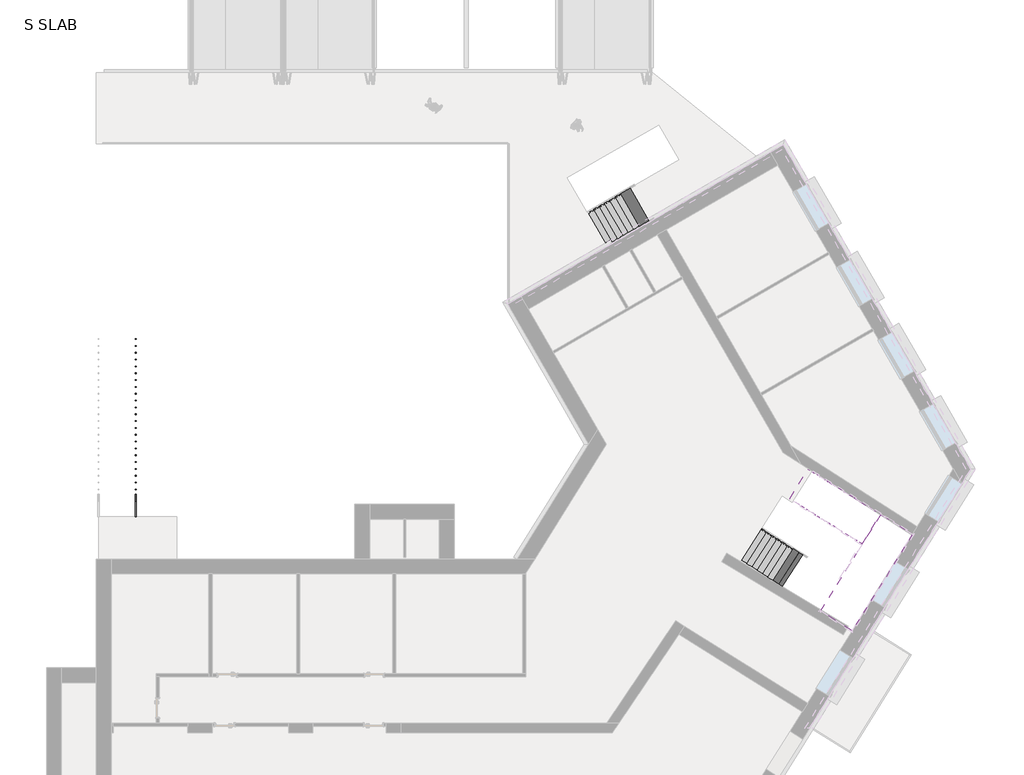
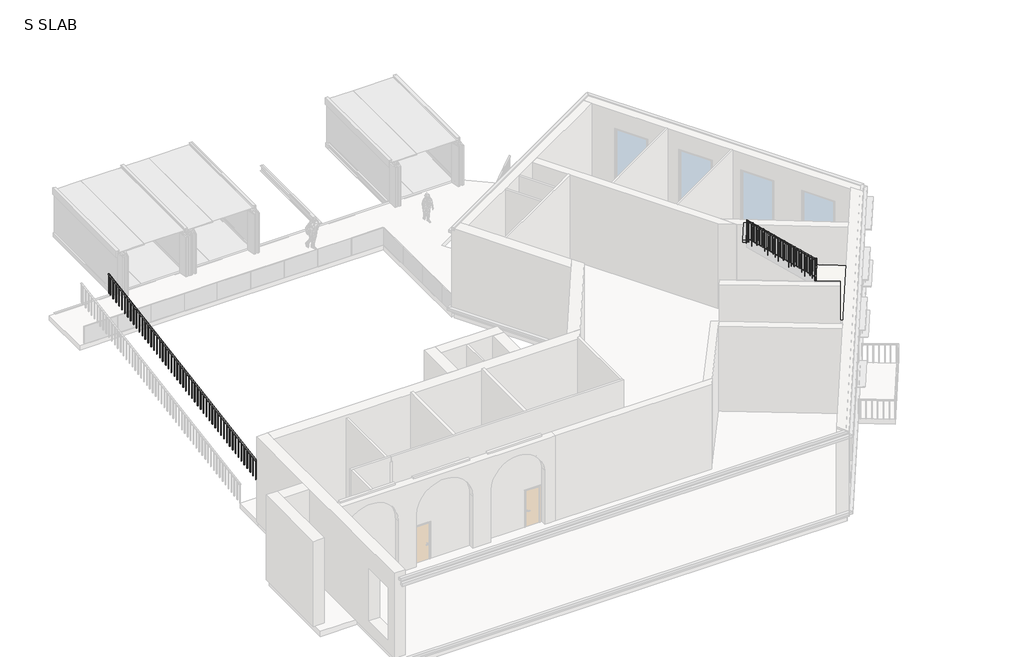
# One storey, part 3 of 4: 3 stair flights, 2 railings, 1 slab.
"""IFC4 building model written with IfcOpenShell, lengths in millimetres."""

from ifc_helpers import new_model, si_unit, frame, origin, place, context, project, spatial, polyline, outline, extrude, faceted_brep, transform, mapped, element, save
from components import slab_e200e813, wood_steps_w_50mm_tread_10mm_nosing_13mm_riser_ad3dbc8e, wood_steps_w_50mm_tread_10mm_nosing_13mm_riser_ab96eb21, wood_steps_w_50mm_tread_10mm_nosing_13mm_riser_1746afbe

model = new_model("IFC4")

# Units and contexts
model_context = context("Model", 3, world=origin())
ifc_project = project(units=[si_unit("LENGTHUNIT", "METRE", prefix="MILLI")], contexts=[model_context])

# Site, building, storey
site = spatial("IfcSite", under=ifc_project)
building = spatial("IfcBuilding", under=site)
storey = spatial("IfcBuildingStorey", under=building, Name="S SLAB", Elevation=6300.0)

# Railings
placement = place(None, origin())
element("IfcRailing", 1, ObjectType="1100mm", at=placement, inside=storey, context=model_context, shape_type="SolidModel", body=[
    faceted_brep([(13346.3491617, 10803.5601514, 7567.7419355), (13346.3491617, 10803.5601514, 7507.529858), (13319.414823, 10761.4348455, 7507.529858), (13319.414823, 10761.4348455, 7567.7419355), (16451.2881703, 8818.3050396, 10040.5001387), (16493.4134762, 8791.3707009, 10013.8364483), (16466.4791375, 8749.245395, 10013.8364483), (16424.3538316, 8776.1797337, 10040.5001387), (16553.7286282, 8841.4697509, 10033.8709677), (16553.7286282, 8841.4697509, 10083.8709677), (17356.5933547, 10130.2282843, 10083.8709677), (17383.0314845, 10172.6667727, 10033.8709677), (16596.1671165, 8815.0316211, 10033.8709677), (17425.4699729, 10146.2286429, 10033.8709677), (16596.1671165, 8815.0316211, 10083.8709677), (17399.0318431, 10103.7901545, 10083.8709677), (17356.5933547, 10130.2282843, 10301.6670968), (17383.0314845, 10172.6667727, 10251.6670968), (17425.4699729, 10146.2286429, 10251.6670968), (17399.0318431, 10103.7901545, 10301.6670968), (17396.2505494, 10193.8860168, 10301.6670968), (17396.2505494, 10193.8860168, 10251.6670968), (17465.1271675, 10209.8863754, 10251.6670968), (17465.1271675, 10209.8863754, 10301.6670968), (17332.5928169, 10233.5432115, 10301.6670968), (17319.6746062, 10241.5909376, 10251.6670968), (17346.112736, 10284.029426, 10251.6670968), (17359.0309466, 10275.9816999, 10301.6670968), (14637.4092982, 11912.5759571, 12432.2580645), (14663.847428, 11955.0144454, 12432.2580645), (14663.847428, 11955.0144454, 12372.045987), (14637.4092982, 11912.5759571, 12372.045987), (16451.2881703, 8818.3050396, 10083.8709677), (16493.4134762, 8791.3707009, 10033.8709677), (16466.4791375, 8749.245395, 10033.8709677), (16424.3538316, 8776.1797337, 10083.8709677), (16514.2274846, 8778.0625115, 10083.8709677), (16514.2274846, 8778.0625115, 10033.8709677), (16529.915741, 8708.684907, 10033.8709677), (16529.915741, 8708.684907, 10083.8709677)], [[[0, 1, 2, 3]], [[1, 0, 4, 5]], [[2, 1, 5, 6]], [[3, 2, 6, 7]], [[0, 3, 7, 4]], [[8, 9, 10, 11]], [[12, 8, 11, 13]], [[14, 12, 13, 15]], [[9, 14, 15, 10]], [[11, 10, 16, 17]], [[13, 11, 17, 18]], [[15, 13, 18, 19]], [[10, 15, 19, 16]], [[17, 16, 20, 21]], [[18, 17, 21, 22]], [[19, 18, 22, 23]], [[16, 19, 23, 20]], [[21, 20, 24, 25]], [[22, 21, 25, 26]], [[23, 22, 26, 27]], [[20, 23, 27, 24]], [[28, 29, 30, 31]], [[25, 24, 28, 31]], [[26, 25, 31, 30]], [[27, 26, 30, 29]], [[24, 27, 29, 28]], [[5, 4, 32, 33]], [[6, 5, 33, 34]], [[7, 6, 34, 35]], [[4, 7, 35, 32]], [[33, 32, 36, 37]], [[34, 33, 37, 38]], [[35, 34, 38, 39]], [[32, 35, 39, 36]], [[37, 36, 9, 8]], [[38, 37, 8, 12]], [[39, 38, 12, 14]], [[36, 39, 14, 9]]]),
    extrude(outline(polyline([(108.3870968, 0.0), (91.6129032, 25.0), (1248.5517935, 25.0), (1248.5517935, 0.0), (108.3870968, 0.0)])), frame((14729.2353153, 11870.0978146, 12413.0679225), z_axis=(0.5287625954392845, 0.84876976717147, 0.0), x_axis=(0.0, 0.0, -1.0000000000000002)), (0.0, 0.0, 1.0), 25.0),
    extrude(outline(polyline([(108.3870968, 0.0), (91.6129033, 25.0), (1164.6808258, 25.0), (1164.6808258, 0.0), (108.3870968, 0.0)])), frame((14835.3315362, 11804.0024901, 12329.1969548), z_axis=(0.5287625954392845, 0.84876976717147, 0.0), x_axis=(0.0, 0.0, -1.0000000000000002)), (0.0, 0.0, 1.0), 25.0),
    extrude(outline(polyline([(108.3870968, 0.0), (91.6129032, 25.0), (1248.5517935, 25.0), (1248.5517935, 0.0), (108.3870968, 0.0)])), frame((14941.4277571, 11737.9071657, 12245.325987), z_axis=(0.5287625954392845, 0.84876976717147, 0.0), x_axis=(0.0, 0.0, -1.0000000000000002)), (0.0, 0.0, 1.0), 25.0),
    extrude(outline(polyline([(108.3870968, 0.0), (91.6129033, 24.9999999), (1164.6808258, 24.9999999), (1164.6808258, 0.0), (108.3870968, 0.0)])), frame((15047.5239779, 11671.8118413, 12161.4550193), z_axis=(0.5287625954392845, 0.84876976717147, 0.0), x_axis=(0.0, 0.0, -1.0000000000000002)), (0.0, 0.0, 1.0), 25.0),
    extrude(outline(polyline([(108.3870967, 0.0), (91.6129032, 24.9999999), (1248.5517934, 24.9999999), (1248.5517934, 0.0), (108.3870967, 0.0)])), frame((15153.6201988, 11605.7165168, 12077.5840515), z_axis=(0.5287625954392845, 0.84876976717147, 0.0), x_axis=(0.0, 0.0, -1.0000000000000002)), (0.0, 0.0, 1.0), 25.0),
    extrude(outline(polyline([(108.3870968, 0.0), (91.6129032, 24.9999999), (1164.6808257, 24.9999999), (1164.6808257, 0.0), (108.3870968, 0.0)])), frame((15259.7164197, 11539.6211924, 11993.7130838), z_axis=(0.5287625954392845, 0.84876976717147, 0.0), x_axis=(0.0, 0.0, -1.0000000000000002)), (0.0, 0.0, 1.0), 25.0),
    extrude(outline(polyline([(108.3870967, 0.0), (91.6129032, 24.9999999), (1248.5517934, 24.9999999), (1248.5517934, 0.0), (108.3870967, 0.0)])), frame((15365.8126406, 11473.525868, 11909.842116), z_axis=(0.5287625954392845, 0.84876976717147, 0.0), x_axis=(0.0, 0.0, -1.0000000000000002)), (0.0, 0.0, 1.0), 25.0),
    extrude(outline(polyline([(108.3870968, 0.0), (91.6129032, 24.9999999), (1164.6808257, 24.9999999), (1164.6808257, 0.0), (108.3870968, 0.0)])), frame((15471.9088615, 11407.4305436, 11825.9711483), z_axis=(0.5287625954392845, 0.84876976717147, 0.0), x_axis=(0.0, 0.0, -1.0000000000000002)), (0.0, 0.0, 1.0), 25.0),
    extrude(outline(polyline([(108.3870968, 0.0), (91.6129033, 25.0), (1248.5517935, 25.0), (1248.5517935, 0.0), (108.3870968, 0.0)])), frame((15578.0050824, 11341.3352191, 11742.1001806), z_axis=(0.5287625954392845, 0.84876976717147, 0.0), x_axis=(0.0, 0.0, -1.0000000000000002)), (0.0, 0.0, 1.0), 25.0),
    extrude(outline(polyline([(108.3870968, 0.0), (91.6129032, 25.0), (1164.6808257, 25.0), (1164.6808257, 0.0), (108.3870968, 0.0)])), frame((15684.1013033, 11275.2398947, 11658.2292128), z_axis=(0.5287625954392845, 0.84876976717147, 0.0), x_axis=(0.0, 0.0, -1.0000000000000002)), (0.0, 0.0, 1.0), 25.0),
    extrude(outline(polyline([(108.3870968, 0.0), (91.6129032, 25.0), (1248.5517935, 25.0), (1248.5517935, 0.0), (108.3870968, 0.0)])), frame((15790.1975242, 11209.1445703, 11574.3582451), z_axis=(0.5287625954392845, 0.84876976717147, 0.0), x_axis=(0.0, 0.0, -1.0000000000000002)), (0.0, 0.0, 1.0), 25.0),
    extrude(outline(polyline([(108.3870967, 0.0), (91.6129032, 25.0), (1164.6808257, 25.0), (1164.6808257, 0.0), (108.3870967, 0.0)])), frame((15896.2937451, 11143.0492458, 11490.4872773), z_axis=(0.5287625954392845, 0.84876976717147, 0.0), x_axis=(0.0, 0.0, -1.0000000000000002)), (0.0, 0.0, 1.0), 25.0),
    extrude(outline(polyline([(108.3870968, 0.0), (91.6129032, 25.0), (1248.5517935, 25.0), (1248.5517935, 0.0), (108.3870968, 0.0)])), frame((16002.389966, 11076.9539214, 11406.6163096), z_axis=(0.5287625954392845, 0.84876976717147, 0.0), x_axis=(0.0, 0.0, -1.0000000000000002)), (0.0, 0.0, 1.0), 25.0),
    extrude(outline(polyline([(108.3870968, 0.0), (91.6129033, 25.0), (1164.6808258, 25.0), (1164.6808258, 0.0), (108.3870968, 0.0)])), frame((16108.4861869, 11010.858597, 11322.7453419), z_axis=(0.5287625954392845, 0.84876976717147, 0.0), x_axis=(0.0, 0.0, -1.0000000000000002)), (0.0, 0.0, 1.0), 25.0),
    extrude(outline(polyline([(108.3870968, 0.0), (91.6129032, 25.0), (1248.5517935, 25.0), (1248.5517935, 0.0), (108.3870968, 0.0)])), frame((16214.5824078, 10944.7632726, 11238.8743741), z_axis=(0.5287625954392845, 0.84876976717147, 0.0), x_axis=(0.0, 0.0, -1.0000000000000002)), (0.0, 0.0, 1.0), 25.0),
    extrude(outline(polyline([(108.3870968, 0.0), (91.6129033, 25.0), (1164.6808258, 25.0), (1164.6808258, 0.0), (108.3870968, 0.0)])), frame((16320.6786287, 10878.6679481, 11155.0034064), z_axis=(0.5287625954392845, 0.84876976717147, 0.0), x_axis=(0.0, 0.0, -1.0000000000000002)), (0.0, 0.0, 1.0), 25.0),
    extrude(outline(polyline([(108.3870967, 0.0), (91.6129032, 25.0), (1248.5517934, 25.0), (1248.5517934, 0.0), (108.3870967, 0.0)])), frame((16426.7748496, 10812.5726237, 11071.1324386), z_axis=(0.5287625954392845, 0.84876976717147, 0.0), x_axis=(0.0, 0.0, -1.0000000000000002)), (0.0, 0.0, 1.0), 25.0),
    extrude(outline(polyline([(108.3870968, 0.0), (91.6129032, 25.0), (1164.6808257, 25.0), (1164.6808257, 0.0), (108.3870968, 0.0)])), frame((16532.8710705, 10746.4772993, 10987.2614709), z_axis=(0.5287625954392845, 0.84876976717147, 0.0), x_axis=(0.0, 0.0, -1.0000000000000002)), (0.0, 0.0, 1.0), 25.0),
    extrude(outline(polyline([(108.3870967, 0.0), (91.6129032, 25.0), (1248.5517934, 25.0), (1248.5517934, 0.0), (108.3870967, 0.0)])), frame((16638.9672914, 10680.3819748, 10903.3905031), z_axis=(0.5287625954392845, 0.84876976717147, 0.0), x_axis=(0.0, 0.0, -1.0000000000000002)), (0.0, 0.0, 1.0), 25.0),
    extrude(outline(polyline([(108.3870968, 0.0), (91.6129032, 25.0), (1164.6808257, 25.0), (1164.6808257, 0.0), (108.3870968, 0.0)])), frame((16745.0635123, 10614.2866504, 10819.5195354), z_axis=(0.5287625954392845, 0.84876976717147, 0.0), x_axis=(0.0, 0.0, -1.0000000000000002)), (0.0, 0.0, 1.0), 25.0),
    extrude(outline(polyline([(108.3870968, 0.0), (91.6129033, 25.0), (1248.5517935, 25.0), (1248.5517935, 0.0), (108.3870968, 0.0)])), frame((16851.1597332, 10548.191326, 10735.6485677), z_axis=(0.5287625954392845, 0.84876976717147, 0.0), x_axis=(0.0, 0.0, -1.0000000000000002)), (0.0, 0.0, 1.0), 25.0),
    extrude(outline(polyline([(108.3870968, 0.0), (91.6129032, 25.0), (1164.6808257, 25.0), (1164.6808257, 0.0), (108.3870968, 0.0)])), frame((16957.2559541, 10482.0960015, 10651.7775999), z_axis=(0.5287625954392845, 0.84876976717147, 0.0), x_axis=(0.0, 0.0, -1.0000000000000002)), (0.0, 0.0, 1.0), 25.0),
    extrude(outline(polyline([(108.3870968, 0.0), (91.6129032, 25.0), (1248.5517935, 25.0), (1248.5517935, 0.0), (108.3870968, 0.0)])), frame((17063.352175, 10416.0006771, 10567.9066322), z_axis=(0.5287625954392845, 0.84876976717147, 0.0), x_axis=(0.0, 0.0, -1.0000000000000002)), (0.0, 0.0, 1.0), 25.0),
    extrude(outline(polyline([(108.3870967, 0.0), (91.6129032, 25.0), (1164.6808257, 25.0), (1164.6808257, 0.0), (108.3870967, 0.0)])), frame((17169.4483959, 10349.9053527, 10484.0356644), z_axis=(0.5287625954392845, 0.84876976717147, 0.0), x_axis=(0.0, 0.0, -1.0000000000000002)), (0.0, 0.0, 1.0), 25.0),
    extrude(outline(polyline([(108.3870968, 0.0), (91.6129032, 25.0), (1248.5517935, 25.0), (1248.5517935, 0.0), (108.3870968, 0.0)])), frame((17275.5446168, 10283.8100283, 10400.1646967), z_axis=(0.5287625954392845, 0.84876976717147, 0.0), x_axis=(0.0, 0.0, -1.0000000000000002)), (0.0, 0.0, 1.0), 25.0),
    extrude(outline(polyline([(17381.6408377, 10217.7147038), (17360.4215935, 10230.9337687), (17373.6406584, 10252.1530129), (17394.8599026, 10238.933948), (17381.6408377, 10217.7147038)])), frame((0.0, 0.0, 9151.6129032), z_axis=(0.0, 0.0, 1.0), x_axis=(1.0, 0.0, 0.0)), (0.0, 0.0, 1.0), 1100.0541935),
    extrude(outline(polyline([(17397.1393381, 10171.6726017), (17410.358403, 10192.8918459), (17431.5776471, 10179.672781), (17418.3585823, 10158.4535368), (17397.1393381, 10171.6726017)])), frame((0.0, 0.0, 8983.8709677), z_axis=(0.0, 0.0, 1.0), x_axis=(1.0, 0.0, 0.0)), (0.0, 0.0, 1.0), 1267.796129),
    extrude(outline(polyline([(17331.0440137, 10065.5763808), (17344.2630785, 10086.795625), (17365.4823227, 10073.5765601), (17352.2632578, 10052.3573159), (17331.0440137, 10065.5763808)])), frame((0.0, 0.0, 8983.8709677), z_axis=(0.0, 0.0, 1.0), x_axis=(1.0, 0.0, 0.0)), (0.0, 0.0, 1.0), 1050.0),
    extrude(outline(polyline([(17264.9486892, 9959.4801599), (17278.1677541, 9980.6994041), (17299.3869983, 9967.4803392), (17286.1679334, 9946.261095), (17264.9486892, 9959.4801599)])), frame((0.0, 0.0, 8983.8709677), z_axis=(0.0, 0.0, 1.0), x_axis=(1.0, 0.0, 0.0)), (0.0, 0.0, 1.0), 1050.0),
    extrude(outline(polyline([(17198.8533648, 9853.383939), (17212.0724297, 9874.6031832), (17233.2916739, 9861.3841183), (17220.072609, 9840.1648741), (17198.8533648, 9853.383939)])), frame((0.0, 0.0, 8983.8709677), z_axis=(0.0, 0.0, 1.0), x_axis=(1.0, 0.0, 0.0)), (0.0, 0.0, 1.0), 1050.0),
    extrude(outline(polyline([(17132.7580404, 9747.2877181), (17145.9771052, 9768.5069623), (17167.1963494, 9755.2878974), (17153.9772845, 9734.0686532), (17132.7580404, 9747.2877181)])), frame((0.0, 0.0, 8983.8709677), z_axis=(0.0, 0.0, 1.0), x_axis=(1.0, 0.0, 0.0)), (0.0, 0.0, 1.0), 1050.0),
    extrude(outline(polyline([(17066.6627159, 9641.1914972), (17079.8817808, 9662.4107414), (17101.101025, 9649.1916765), (17087.8819601, 9627.9724323), (17066.6627159, 9641.1914972)])), frame((0.0, 0.0, 8983.8709677), z_axis=(0.0, 0.0, 1.0), x_axis=(1.0, 0.0, 0.0)), (0.0, 0.0, 1.0), 1050.0),
    extrude(outline(polyline([(17000.5673915, 9535.0952763), (17013.7864564, 9556.3145205), (17035.0057006, 9543.0954556), (17021.7866357, 9521.8762114), (17000.5673915, 9535.0952763)])), frame((0.0, 0.0, 8983.8709677), z_axis=(0.0, 0.0, 1.0), x_axis=(1.0, 0.0, 0.0)), (0.0, 0.0, 1.0), 1050.0),
    extrude(outline(polyline([(16934.4720671, 9428.9990554), (16947.691132, 9450.2182996), (16968.9103761, 9436.9992347), (16955.6913113, 9415.7799905), (16934.4720671, 9428.9990554)])), frame((0.0, 0.0, 8983.8709677), z_axis=(0.0, 0.0, 1.0), x_axis=(1.0, 0.0, 0.0)), (0.0, 0.0, 1.0), 1050.0),
    extrude(outline(polyline([(16868.3767426, 9322.9028345), (16881.5958075, 9344.1220787), (16902.8150517, 9330.9030138), (16889.5959868, 9309.6837697), (16868.3767426, 9322.9028345)])), frame((0.0, 0.0, 8983.8709677), z_axis=(0.0, 0.0, 1.0), x_axis=(1.0, 0.0, 0.0)), (0.0, 0.0, 1.0), 1050.0),
    extrude(outline(polyline([(16802.2814182, 9216.8066136), (16815.5004831, 9238.0258578), (16836.7197273, 9224.8067929), (16823.5006624, 9203.5875488), (16802.2814182, 9216.8066136)])), frame((0.0, 0.0, 8983.8709677), z_axis=(0.0, 0.0, 1.0), x_axis=(1.0, 0.0, 0.0)), (0.0, 0.0, 1.0), 1050.0),
    extrude(outline(polyline([(16736.1860938, 9110.7103927), (16749.4051587, 9131.9296369), (16770.6244028, 9118.710572), (16757.405338, 9097.4913279), (16736.1860938, 9110.7103927)])), frame((0.0, 0.0, 8983.8709677), z_axis=(0.0, 0.0, 1.0), x_axis=(1.0, 0.0, 0.0)), (0.0, 0.0, 1.0), 1050.0),
    extrude(outline(polyline([(16670.0907694, 9004.6141718), (16683.3098342, 9025.833416), (16704.5290784, 9012.6143511), (16691.3100135, 8991.395107), (16670.0907694, 9004.6141718)])), frame((0.0, 0.0, 8983.8709677), z_axis=(0.0, 0.0, 1.0), x_axis=(1.0, 0.0, 0.0)), (0.0, 0.0, 1.0), 1050.0),
    extrude(outline(polyline([(16603.9954449, 8898.517951), (16617.2145098, 8919.7371951), (16638.433754, 8906.5181302), (16625.2146891, 8885.2988861), (16603.9954449, 8898.517951)])), frame((0.0, 0.0, 8983.8709677), z_axis=(0.0, 0.0, 1.0), x_axis=(1.0, 0.0, 0.0)), (0.0, 0.0, 1.0), 1050.0),
    extrude(outline(polyline([(16537.9001205, 8792.4217301), (16551.1191854, 8813.6409742), (16572.3384296, 8800.4219093), (16559.1193647, 8779.2026652), (16537.9001205, 8792.4217301)])), frame((0.0, 0.0, 8983.8709677), z_axis=(0.0, 0.0, 1.0), x_axis=(1.0, 0.0, 0.0)), (0.0, 0.0, 1.0), 1050.0),
    extrude(outline(polyline([(16435.825562, 8813.3549303), (16456.888215, 8799.8877609), (16443.4210456, 8778.825108), (16422.3583927, 8792.2922773), (16435.825562, 8813.3549303)])), frame((0.0, 0.0, 8816.1290323), z_axis=(0.0, 0.0, 1.0), x_axis=(1.0, 0.0, 0.0)), (0.0, 0.0, 1.0), 1217.7419355),
    extrude(outline(polyline([(1181.7234063, 25.0), (1181.7234063, 0.0), (91.6129032, 0.0), (108.3870967, 25.0), (1181.7234063, 25.0)])), frame((16338.1077808, 8846.1609547, 9997.8524386), z_axis=(0.5386867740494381, 0.8425061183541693, 0.0), x_axis=(0.0, 0.0, -1.0)), (0.0, 0.0, 1.0), 25.0),
    extrude(outline(polyline([(1265.5943741, 24.9999999), (1265.5943741, 0.0), (91.6129032, 0.0), (108.3870968, 24.9999999), (1265.5943741, 24.9999999)])), frame((16232.794516, 8913.4968015, 9913.9814709), z_axis=(0.5386867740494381, 0.8425061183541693, 0.0), x_axis=(0.0, 0.0, -1.0)), (0.0, 0.0, 1.0), 25.0),
    extrude(outline(polyline([(1181.7234063, 25.0), (1181.7234063, 0.0), (91.6129032, 0.0), (108.3870967, 25.0), (1181.7234063, 25.0)])), frame((16127.4812512, 8980.8326482, 9830.1105031), z_axis=(0.5386867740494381, 0.8425061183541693, 0.0), x_axis=(0.0, 0.0, -1.0)), (0.0, 0.0, 1.0), 25.0),
    extrude(outline(polyline([(1265.5943741, 24.9999999), (1265.5943741, 0.0), (91.6129032, 0.0), (108.3870968, 24.9999999), (1265.5943741, 24.9999999)])), frame((16022.1679864, 9048.168495, 9746.2395354), z_axis=(0.5386867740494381, 0.8425061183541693, 0.0), x_axis=(0.0, 0.0, -1.0)), (0.0, 0.0, 1.0), 25.0),
    extrude(outline(polyline([(1181.7234064, 25.0), (1181.7234064, 0.0), (91.6129033, 0.0), (108.3870968, 25.0), (1181.7234064, 25.0)])), frame((15916.8547216, 9115.5043417, 9662.3685677), z_axis=(0.5386867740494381, 0.8425061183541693, 0.0), x_axis=(0.0, 0.0, -1.0)), (0.0, 0.0, 1.0), 25.0),
    extrude(outline(polyline([(1265.5943741, 25.0000001), (1265.5943741, 0.0), (91.6129032, 0.0), (108.3870968, 25.0000001), (1265.5943741, 25.0000001)])), frame((15811.5414569, 9182.8401885, 9578.4975999), z_axis=(0.5386867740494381, 0.8425061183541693, 0.0), x_axis=(0.0, 0.0, -1.0)), (0.0, 0.0, 1.0), 25.0),
    extrude(outline(polyline([(1181.7234064, 25.0), (1181.7234064, 0.0), (91.6129032, 0.0), (108.3870968, 25.0), (1181.7234064, 25.0)])), frame((15706.2281921, 9250.1760353, 9494.6266322), z_axis=(0.5386867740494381, 0.8425061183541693, 0.0), x_axis=(0.0, 0.0, -1.0)), (0.0, 0.0, 1.0), 25.0),
    extrude(outline(polyline([(1265.5943741, 25.0000001), (1265.5943741, 0.0), (91.6129032, 0.0), (108.3870967, 25.0000001), (1265.5943741, 25.0000001)])), frame((15600.9149273, 9317.511882, 9410.7556644), z_axis=(0.5386867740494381, 0.8425061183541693, 0.0), x_axis=(0.0, 0.0, -1.0)), (0.0, 0.0, 1.0), 25.0),
    extrude(outline(polyline([(1181.7234064, 25.0), (1181.7234064, 0.0), (91.6129032, 0.0), (108.3870968, 25.0), (1181.7234064, 25.0)])), frame((15495.6016625, 9384.8477288, 9326.8846967), z_axis=(0.5386867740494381, 0.8425061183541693, 0.0), x_axis=(0.0, 0.0, -1.0)), (0.0, 0.0, 1.0), 25.0),
    extrude(outline(polyline([(1265.5943742, 25.0000001), (1265.5943742, 0.0), (91.6129033, 0.0), (108.3870968, 25.0000001), (1265.5943742, 25.0000001)])), frame((15390.2883977, 9452.1835755, 9243.013729), z_axis=(0.5386867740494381, 0.8425061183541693, 0.0), x_axis=(0.0, 0.0, -1.0)), (0.0, 0.0, 1.0), 25.0),
    extrude(outline(polyline([(1181.7234064, 25.0), (1181.7234064, 0.0), (91.6129032, 0.0), (108.3870968, 25.0), (1181.7234064, 25.0)])), frame((15284.9751329, 9519.5194223, 9159.1427612), z_axis=(0.5386867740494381, 0.8425061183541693, 0.0), x_axis=(0.0, 0.0, -1.0)), (0.0, 0.0, 1.0), 25.0),
    extrude(outline(polyline([(1265.5943741, 25.0000001), (1265.5943741, 0.0), (91.6129033, 0.0), (108.3870968, 25.0000001), (1265.5943741, 25.0000001)])), frame((15179.6618681, 9586.855269, 9075.2717935), z_axis=(0.5386867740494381, 0.8425061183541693, 0.0), x_axis=(0.0, 0.0, -1.0)), (0.0, 0.0, 1.0), 25.0),
    extrude(outline(polyline([(1181.7234063, 25.0), (1181.7234063, 0.0), (91.6129032, 0.0), (108.3870967, 25.0), (1181.7234063, 25.0)])), frame((15074.3486033, 9654.1911158, 8991.4008257), z_axis=(0.5386867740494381, 0.8425061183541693, 0.0), x_axis=(0.0, 0.0, -1.0)), (0.0, 0.0, 1.0), 25.0),
    extrude(outline(polyline([(1265.5943741, 25.0), (1265.5943741, 0.0), (91.6129032, 0.0), (108.3870968, 25.0), (1265.5943741, 25.0)])), frame((14969.0353385, 9721.5269626, 8907.529858), z_axis=(0.5386867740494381, 0.8425061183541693, 0.0), x_axis=(0.0, 0.0, -1.0)), (0.0, 0.0, 1.0), 25.0),
    extrude(outline(polyline([(1181.7234063, 25.0000001), (1181.7234063, 0.0), (91.6129032, 0.0), (108.3870967, 25.0000001), (1181.7234063, 25.0000001)])), frame((14863.7220737, 9788.8628093, 8823.6588902), z_axis=(0.5386867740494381, 0.8425061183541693, 0.0), x_axis=(0.0, 0.0, -1.0)), (0.0, 0.0, 1.0), 25.0),
    extrude(outline(polyline([(1265.5943741, 25.0), (1265.5943741, 0.0), (91.6129032, 0.0), (108.3870968, 25.0), (1265.5943741, 25.0)])), frame((14758.4088089, 9856.1986561, 8739.7879225), z_axis=(0.5386867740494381, 0.8425061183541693, 0.0), x_axis=(0.0, 0.0, -1.0)), (0.0, 0.0, 1.0), 25.0),
    extrude(outline(polyline([(1181.7234064, 25.0), (1181.7234064, 0.0), (91.6129033, 0.0), (108.3870968, 25.0), (1181.7234064, 25.0)])), frame((14653.0955441, 9923.5345028, 8655.9169548), z_axis=(0.5386867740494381, 0.8425061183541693, 0.0), x_axis=(0.0, 0.0, -1.0)), (0.0, 0.0, 1.0), 25.0),
    extrude(outline(polyline([(1265.5943741, 24.9999999), (1265.5943741, 0.0), (91.6129032, 0.0), (108.3870968, 24.9999999), (1265.5943741, 24.9999999)])), frame((14547.7822793, 9990.8703496, 8572.045987), z_axis=(0.5386867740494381, 0.8425061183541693, 0.0), x_axis=(0.0, 0.0, -1.0)), (0.0, 0.0, 1.0), 25.0),
    extrude(outline(polyline([(1181.7234064, 25.0), (1181.7234064, 0.0), (91.6129033, 0.0), (108.3870968, 25.0), (1181.7234064, 25.0)])), frame((14442.4690145, 10058.2061963, 8488.1750193), z_axis=(0.5386867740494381, 0.8425061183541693, 0.0), x_axis=(0.0, 0.0, -1.0)), (0.0, 0.0, 1.0), 25.0),
    extrude(outline(polyline([(1265.5943741, 24.9999999), (1265.5943741, 0.0), (91.6129032, 0.0), (108.3870967, 24.9999999), (1265.5943741, 24.9999999)])), frame((14337.1557497, 10125.5420431, 8404.3040515), z_axis=(0.5386867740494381, 0.8425061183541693, 0.0), x_axis=(0.0, 0.0, -1.0)), (0.0, 0.0, 1.0), 25.0),
    extrude(outline(polyline([(1181.7234064, 25.0), (1181.7234064, 0.0), (91.6129032, 0.0), (108.3870968, 25.0), (1181.7234064, 25.0)])), frame((14231.8424849, 10192.8778898, 8320.4330838), z_axis=(0.5386867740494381, 0.8425061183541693, 0.0), x_axis=(0.0, 0.0, -1.0)), (0.0, 0.0, 1.0), 25.0),
    extrude(outline(polyline([(1265.5943741, 25.0), (1265.5943741, 0.0), (91.6129032, 0.0), (108.3870967, 25.0), (1265.5943741, 25.0)])), frame((14126.5292201, 10260.2137366, 8236.562116), z_axis=(0.5386867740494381, 0.8425061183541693, 0.0), x_axis=(0.0, 0.0, -1.0)), (0.0, 0.0, 1.0), 25.0),
    extrude(outline(polyline([(1181.7234064, 24.9999999), (1181.7234064, 0.0), (91.6129032, 0.0), (108.3870968, 24.9999999), (1181.7234064, 24.9999999)])), frame((14021.2159553, 10327.5495834, 8152.6911483), z_axis=(0.5386867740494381, 0.8425061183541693, 0.0), x_axis=(0.0, 0.0, -1.0)), (0.0, 0.0, 1.0), 25.0),
    extrude(outline(polyline([(1265.5943741, 25.0000001), (1265.5943741, 0.0), (91.6129033, 0.0), (108.3870968, 25.0000001), (1265.5943741, 25.0000001)])), frame((13915.9026906, 10394.8854301, 8068.8201806), z_axis=(0.5386867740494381, 0.8425061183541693, 0.0), x_axis=(0.0, 0.0, -1.0)), (0.0, 0.0, 1.0), 25.0),
    extrude(outline(polyline([(1181.7234063, 25.0), (1181.7234063, 0.0), (91.6129032, 0.0), (108.3870968, 25.0), (1181.7234063, 25.0)])), frame((13810.5894258, 10462.2212769, 7984.9492128), z_axis=(0.5386867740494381, 0.8425061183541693, 0.0), x_axis=(0.0, 0.0, -1.0)), (0.0, 0.0, 1.0), 25.0),
    extrude(outline(polyline([(1265.5943741, 25.0000001), (1265.5943741, 0.0), (91.6129032, 0.0), (108.3870968, 25.0000001), (1265.5943741, 25.0000001)])), frame((13705.276161, 10529.5571236, 7901.0782451), z_axis=(0.5386867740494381, 0.8425061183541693, 0.0), x_axis=(0.0, 0.0, -1.0)), (0.0, 0.0, 1.0), 25.0),
    extrude(outline(polyline([(1181.7234063, 25.0), (1181.7234063, 0.0), (91.6129032, 0.0), (108.3870967, 25.0), (1181.7234063, 25.0)])), frame((13599.9628962, 10596.8929704, 7817.2072773), z_axis=(0.5386867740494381, 0.8425061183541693, 0.0), x_axis=(0.0, 0.0, -1.0)), (0.0, 0.0, 1.0), 25.0),
    extrude(outline(polyline([(1265.5943741, 25.0000001), (1265.5943741, 0.0), (91.6129032, 0.0), (108.3870968, 25.0000001), (1265.5943741, 25.0000001)])), frame((13494.6496314, 10664.2288171, 7733.3363096), z_axis=(0.5386867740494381, 0.8425061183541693, 0.0), x_axis=(0.0, 0.0, -1.0)), (0.0, 0.0, 1.0), 25.0),
    extrude(outline(polyline([(1181.7234064, 25.0), (1181.7234064, 0.0), (91.6129033, 0.0), (108.3870968, 25.0), (1181.7234064, 25.0)])), frame((13389.3363666, 10731.5646639, 7649.4653419), z_axis=(0.5386867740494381, 0.8425061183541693, 0.0), x_axis=(0.0, 0.0, -1.0)), (0.0, 0.0, 1.0), 25.0),
    extrude(outline(polyline([(17413.4697039, 10197.8861065), (17426.6887688, 10219.1053507), (17447.908013, 10205.8862858), (17434.6889481, 10184.6670416), (17413.4697039, 10197.8861065)])), frame((0.0, 0.0, 8983.8709677), z_axis=(0.0, 0.0, 1.0), x_axis=(1.0, 0.0, 0.0)), (0.0, 0.0, 1.0), 1267.796129),
    extrude(outline(polyline([(16518.273871, 8760.6386204), (16539.336524, 8747.1714511), (16525.8693546, 8726.1087981), (16504.8067017, 8739.5759674), (16518.273871, 8760.6386204)])), frame((0.0, 0.0, 8983.8709677), z_axis=(0.0, 0.0, 1.0), x_axis=(1.0, 0.0, 0.0)), (0.0, 0.0, 1.0), 1050.0),
    extrude(outline(polyline([(16488.4821944, 8779.6870069), (16509.5448474, 8766.2198375), (16496.077678, 8745.1571846), (16475.0150251, 8758.6243539), (16488.4821944, 8779.6870069)])), frame((0.0, 0.0, 8983.8709677), z_axis=(0.0, 0.0, 1.0), x_axis=(1.0, 0.0, 0.0)), (0.0, 0.0, 1.0), 1050.0),
    extrude(outline(polyline([(108.3870967, 0.0), (91.6129032, 25.0), (1299.1427612, 25.0), (1299.1427612, 0.0), (108.3870967, 0.0)])), frame((14665.2380748, 11909.9665143, 12463.6588902), z_axis=(0.5287625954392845, 0.84876976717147, 0.0), x_axis=(0.0, 0.0, -1.0000000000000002)), (0.0, 0.0, 1.0), 25.0),
    extrude(outline(polyline([(1148.1750193, 25.0), (1148.1750193, 0.0), (91.6129033, 0.0), (108.3870968, 25.0), (1148.1750193, 25.0)])), frame((13347.2110607, 10758.4990026, 7615.9169548), z_axis=(0.5386867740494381, 0.8425061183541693, 0.0), x_axis=(0.0, 0.0, -1.0)), (0.0, 0.0, 1.0), 25.0),
])
element("IfcRailing", 2, ObjectType="1100mm", at=placement, inside=storey, context=model_context, shape_type="SweptSolid", body=[
    extrude(outline(polyline([(11291.1254445, 7349.3104075), (11291.1254445, 7400.0), (26292.1681881, 9900.0), (26292.1681881, 9849.3104075), (11291.1254445, 7349.3104075)])), frame((-11868.1675533, 0.0, 0.0), z_axis=(1.0, 0.0, 0.0), x_axis=(0.0, 1.0, 0.0)), (0.0, 0.0, 1.0), 50.0),
    extrude(outline(polyline([(26128.6254445, 9822.0551782), (26153.6254445, 9826.2215553), (26153.6254445, 8774.8279593), (26128.6254445, 8774.8279593), (26128.6254445, 9822.0551782)])), frame((-11855.6675533, 0.0, 0.0), z_axis=(1.0, 0.0, 0.0), x_axis=(0.0, 1.0, 0.0)), (0.0, 0.0, 1.0), 25.0),
    extrude(outline(polyline([(25853.6254445, 9776.2250308), (25878.6254445, 9780.3914079), (25878.6254445, 8728.9978119), (25853.6254445, 8728.9978119), (25853.6254445, 9776.2250308)])), frame((-11855.6675533, 0.0, 0.0), z_axis=(1.0, 0.0, 0.0), x_axis=(0.0, 1.0, 0.0)), (0.0, 0.0, 1.0), 25.0),
    extrude(outline(polyline([(25578.6254445, 9730.3948834), (25603.6254445, 9734.5612605), (25603.6254445, 8683.1676645), (25578.6254445, 8683.1676645), (25578.6254445, 9730.3948834)])), frame((-11855.6675533, 0.0, 0.0), z_axis=(1.0, 0.0, 0.0), x_axis=(0.0, 1.0, 0.0)), (0.0, 0.0, 1.0), 25.0),
    extrude(outline(polyline([(25303.6254445, 9684.564736), (25328.6254445, 9688.7311131), (25328.6254445, 8637.3375171), (25303.6254445, 8637.3375171), (25303.6254445, 9684.564736)])), frame((-11855.6675533, 0.0, 0.0), z_axis=(1.0, 0.0, 0.0), x_axis=(0.0, 1.0, 0.0)), (0.0, 0.0, 1.0), 25.0),
    extrude(outline(polyline([(25028.6254445, 9638.7345887), (25053.6254445, 9642.9009657), (25053.6254445, 8591.5073697), (25028.6254445, 8591.5073697), (25028.6254445, 9638.7345887)])), frame((-11855.6675533, 0.0, 0.0), z_axis=(1.0, 0.0, 0.0), x_axis=(0.0, 1.0, 0.0)), (0.0, 0.0, 1.0), 25.0),
    extrude(outline(polyline([(24753.6254445, 9592.9044413), (24778.6254445, 9597.0708183), (24778.6254445, 8545.6772223), (24753.6254445, 8545.6772223), (24753.6254445, 9592.9044413)])), frame((-11855.6675533, 0.0, 0.0), z_axis=(1.0, 0.0, 0.0), x_axis=(0.0, 1.0, 0.0)), (0.0, 0.0, 1.0), 25.0),
    extrude(outline(polyline([(24478.6254445, 9547.0742939), (24503.6254445, 9551.2406709), (24503.6254445, 8499.8470749), (24478.6254445, 8499.8470749), (24478.6254445, 9547.0742939)])), frame((-11855.6675533, 0.0, 0.0), z_axis=(1.0, 0.0, 0.0), x_axis=(0.0, 1.0, 0.0)), (0.0, 0.0, 1.0), 25.0),
    extrude(outline(polyline([(24203.6254445, 9501.2441465), (24228.6254445, 9505.4105235), (24228.6254445, 8454.0169275), (24203.6254445, 8454.0169275), (24203.6254445, 9501.2441465)])), frame((-11855.6675533, 0.0, 0.0), z_axis=(1.0, 0.0, 0.0), x_axis=(0.0, 1.0, 0.0)), (0.0, 0.0, 1.0), 25.0),
    extrude(outline(polyline([(23928.6254445, 9455.4139991), (23953.6254445, 9459.5803761), (23953.6254445, 8408.1867801), (23928.6254445, 8408.1867801), (23928.6254445, 9455.4139991)])), frame((-11855.6675533, 0.0, 0.0), z_axis=(1.0, 0.0, 0.0), x_axis=(0.0, 1.0, 0.0)), (0.0, 0.0, 1.0), 25.0),
    extrude(outline(polyline([(23653.6254445, 9409.5838517), (23678.6254445, 9413.7502287), (23678.6254445, 8362.3566327), (23653.6254445, 8362.3566327), (23653.6254445, 9409.5838517)])), frame((-11855.6675533, 0.0, 0.0), z_axis=(1.0, 0.0, 0.0), x_axis=(0.0, 1.0, 0.0)), (0.0, 0.0, 1.0), 25.0),
    extrude(outline(polyline([(23378.6254445, 9363.7537043), (23403.6254445, 9367.9200813), (23403.6254445, 8316.5264853), (23378.6254445, 8316.5264853), (23378.6254445, 9363.7537043)])), frame((-11855.6675533, 0.0, 0.0), z_axis=(1.0, 0.0, 0.0), x_axis=(0.0, 1.0, 0.0)), (0.0, 0.0, 1.0), 25.0),
    extrude(outline(polyline([(23103.6254445, 9317.9235569), (23128.6254445, 9322.0899339), (23128.6254445, 8270.6963379), (23103.6254445, 8270.6963379), (23103.6254445, 9317.9235569)])), frame((-11855.6675533, 0.0, 0.0), z_axis=(1.0, 0.0, 0.0), x_axis=(0.0, 1.0, 0.0)), (0.0, 0.0, 1.0), 25.0),
    extrude(outline(polyline([(22828.6254445, 9272.0934095), (22853.6254445, 9276.2597865), (22853.6254445, 8224.8661905), (22828.6254445, 8224.8661905), (22828.6254445, 9272.0934095)])), frame((-11855.6675533, 0.0, 0.0), z_axis=(1.0, 0.0, 0.0), x_axis=(0.0, 1.0, 0.0)), (0.0, 0.0, 1.0), 25.0),
    extrude(outline(polyline([(22553.6254445, 9226.2632621), (22578.6254445, 9230.4296391), (22578.6254445, 8179.0360432), (22553.6254445, 8179.0360432), (22553.6254445, 9226.2632621)])), frame((-11855.6675533, 0.0, 0.0), z_axis=(1.0, 0.0, 0.0), x_axis=(0.0, 1.0, 0.0)), (0.0, 0.0, 1.0), 25.0),
    extrude(outline(polyline([(22278.6254445, 9180.4331147), (22303.6254445, 9184.5994917), (22303.6254445, 8133.2058958), (22278.6254445, 8133.2058958), (22278.6254445, 9180.4331147)])), frame((-11855.6675533, 0.0, 0.0), z_axis=(1.0, 0.0, 0.0), x_axis=(0.0, 1.0, 0.0)), (0.0, 0.0, 1.0), 25.0),
    extrude(outline(polyline([(22003.6254445, 9134.6029673), (22028.6254445, 9138.7693444), (22028.6254445, 8087.3757484), (22003.6254445, 8087.3757484), (22003.6254445, 9134.6029673)])), frame((-11855.6675533, 0.0, 0.0), z_axis=(1.0, 0.0, 0.0), x_axis=(0.0, 1.0, 0.0)), (0.0, 0.0, 1.0), 25.0),
    extrude(outline(polyline([(21728.6254445, 9088.7728199), (21753.6254445, 9092.939197), (21753.6254445, 8041.545601), (21728.6254445, 8041.545601), (21728.6254445, 9088.7728199)])), frame((-11855.6675533, 0.0, 0.0), z_axis=(1.0, 0.0, 0.0), x_axis=(0.0, 1.0, 0.0)), (0.0, 0.0, 1.0), 25.0),
    extrude(outline(polyline([(21453.6254445, 9042.9426725), (21478.6254445, 9047.1090496), (21478.6254445, 7995.7154536), (21453.6254445, 7995.7154536), (21453.6254445, 9042.9426725)])), frame((-11855.6675533, 0.0, 0.0), z_axis=(1.0, 0.0, 0.0), x_axis=(0.0, 1.0, 0.0)), (0.0, 0.0, 1.0), 25.0),
    extrude(outline(polyline([(21178.6254445, 8997.1125251), (21203.6254445, 9001.2789022), (21203.6254445, 7949.8853062), (21178.6254445, 7949.8853062), (21178.6254445, 8997.1125251)])), frame((-11855.6675533, 0.0, 0.0), z_axis=(1.0, 0.0, 0.0), x_axis=(0.0, 1.0, 0.0)), (0.0, 0.0, 1.0), 25.0),
    extrude(outline(polyline([(20903.6254445, 8951.2823777), (20928.6254445, 8955.4487548), (20928.6254445, 7904.0551588), (20903.6254445, 7904.0551588), (20903.6254445, 8951.2823777)])), frame((-11855.6675533, 0.0, 0.0), z_axis=(1.0, 0.0, 0.0), x_axis=(0.0, 1.0, 0.0)), (0.0, 0.0, 1.0), 25.0),
    extrude(outline(polyline([(20628.6254445, 8905.4522303), (20653.6254445, 8909.6186074), (20653.6254445, 7858.2250114), (20628.6254445, 7858.2250114), (20628.6254445, 8905.4522303)])), frame((-11855.6675533, 0.0, 0.0), z_axis=(1.0, 0.0, 0.0), x_axis=(0.0, 1.0, 0.0)), (0.0, 0.0, 1.0), 25.0),
    extrude(outline(polyline([(20353.6254445, 8859.622083), (20378.6254445, 8863.78846), (20378.6254445, 7812.394864), (20353.6254445, 7812.394864), (20353.6254445, 8859.622083)])), frame((-11855.6675533, 0.0, 0.0), z_axis=(1.0, 0.0, 0.0), x_axis=(0.0, 1.0, 0.0)), (0.0, 0.0, 1.0), 25.0),
    extrude(outline(polyline([(20078.6254445, 8813.7919356), (20103.6254445, 8817.9583126), (20103.6254445, 7766.5647166), (20078.6254445, 7766.5647166), (20078.6254445, 8813.7919356)])), frame((-11855.6675533, 0.0, 0.0), z_axis=(1.0, 0.0, 0.0), x_axis=(0.0, 1.0, 0.0)), (0.0, 0.0, 1.0), 25.0),
    extrude(outline(polyline([(19803.6254445, 8767.9617882), (19828.6254445, 8772.1281652), (19828.6254445, 7720.7345692), (19803.6254445, 7720.7345692), (19803.6254445, 8767.9617882)])), frame((-11855.6675533, 0.0, 0.0), z_axis=(1.0, 0.0, 0.0), x_axis=(0.0, 1.0, 0.0)), (0.0, 0.0, 1.0), 25.0),
    extrude(outline(polyline([(19528.6254445, 8722.1316408), (19553.6254445, 8726.2980178), (19553.6254445, 7674.9044218), (19528.6254445, 7674.9044218), (19528.6254445, 8722.1316408)])), frame((-11855.6675533, 0.0, 0.0), z_axis=(1.0, 0.0, 0.0), x_axis=(0.0, 1.0, 0.0)), (0.0, 0.0, 1.0), 25.0),
    extrude(outline(polyline([(19253.6254445, 8676.3014934), (19278.6254445, 8680.4678704), (19278.6254445, 7629.0742744), (19253.6254445, 7629.0742744), (19253.6254445, 8676.3014934)])), frame((-11855.6675533, 0.0, 0.0), z_axis=(1.0, 0.0, 0.0), x_axis=(0.0, 1.0, 0.0)), (0.0, 0.0, 1.0), 25.0),
    extrude(outline(polyline([(18978.6254445, 8630.471346), (19003.6254445, 8634.637723), (19003.6254445, 7583.244127), (18978.6254445, 7583.244127), (18978.6254445, 8630.471346)])), frame((-11855.6675533, 0.0, 0.0), z_axis=(1.0, 0.0, 0.0), x_axis=(0.0, 1.0, 0.0)), (0.0, 0.0, 1.0), 25.0),
    extrude(outline(polyline([(18703.6254445, 8584.6411986), (18728.6254445, 8588.8075756), (18728.6254445, 7537.4139796), (18703.6254445, 7537.4139796), (18703.6254445, 8584.6411986)])), frame((-11855.6675533, 0.0, 0.0), z_axis=(1.0, 0.0, 0.0), x_axis=(0.0, 1.0, 0.0)), (0.0, 0.0, 1.0), 25.0),
    extrude(outline(polyline([(18428.6254445, 8538.8110512), (18453.6254445, 8542.9774282), (18453.6254445, 7491.5838322), (18428.6254445, 7491.5838322), (18428.6254445, 8538.8110512)])), frame((-11855.6675533, 0.0, 0.0), z_axis=(1.0, 0.0, 0.0), x_axis=(0.0, 1.0, 0.0)), (0.0, 0.0, 1.0), 25.0),
    extrude(outline(polyline([(18153.6254445, 8492.9809038), (18178.6254445, 8497.1472808), (18178.6254445, 7445.7536848), (18153.6254445, 7445.7536848), (18153.6254445, 8492.9809038)])), frame((-11855.6675533, 0.0, 0.0), z_axis=(1.0, 0.0, 0.0), x_axis=(0.0, 1.0, 0.0)), (0.0, 0.0, 1.0), 25.0),
    extrude(outline(polyline([(17878.6254445, 8447.1507564), (17903.6254445, 8451.3171334), (17903.6254445, 7399.9235375), (17878.6254445, 7399.9235375), (17878.6254445, 8447.1507564)])), frame((-11855.6675533, 0.0, 0.0), z_axis=(1.0, 0.0, 0.0), x_axis=(0.0, 1.0, 0.0)), (0.0, 0.0, 1.0), 25.0),
    extrude(outline(polyline([(17603.6254445, 8401.320609), (17628.6254445, 8405.4869861), (17628.6254445, 7354.0933901), (17603.6254445, 7354.0933901), (17603.6254445, 8401.320609)])), frame((-11855.6675533, 0.0, 0.0), z_axis=(1.0, 0.0, 0.0), x_axis=(0.0, 1.0, 0.0)), (0.0, 0.0, 1.0), 25.0),
    extrude(outline(polyline([(17328.6254445, 8355.4904616), (17353.6254445, 8359.6568387), (17353.6254445, 7308.2632427), (17328.6254445, 7308.2632427), (17328.6254445, 8355.4904616)])), frame((-11855.6675533, 0.0, 0.0), z_axis=(1.0, 0.0, 0.0), x_axis=(0.0, 1.0, 0.0)), (0.0, 0.0, 1.0), 25.0),
    extrude(outline(polyline([(17053.6254445, 8309.6603142), (17078.6254445, 8313.8266913), (17078.6254445, 7262.4330953), (17053.6254445, 7262.4330953), (17053.6254445, 8309.6603142)])), frame((-11855.6675533, 0.0, 0.0), z_axis=(1.0, 0.0, 0.0), x_axis=(0.0, 1.0, 0.0)), (0.0, 0.0, 1.0), 25.0),
    extrude(outline(polyline([(16778.6254445, 8263.8301668), (16803.6254445, 8267.9965439), (16803.6254445, 7216.6029479), (16778.6254445, 7216.6029479), (16778.6254445, 8263.8301668)])), frame((-11855.6675533, 0.0, 0.0), z_axis=(1.0, 0.0, 0.0), x_axis=(0.0, 1.0, 0.0)), (0.0, 0.0, 1.0), 25.0),
    extrude(outline(polyline([(16503.6254445, 8218.0000194), (16528.6254445, 8222.1663965), (16528.6254445, 7170.7728005), (16503.6254445, 7170.7728005), (16503.6254445, 8218.0000194)])), frame((-11855.6675533, 0.0, 0.0), z_axis=(1.0, 0.0, 0.0), x_axis=(0.0, 1.0, 0.0)), (0.0, 0.0, 1.0), 25.0),
    extrude(outline(polyline([(16228.6254445, 8172.169872), (16253.6254445, 8176.3362491), (16253.6254445, 7124.9426531), (16228.6254445, 7124.9426531), (16228.6254445, 8172.169872)])), frame((-11855.6675533, 0.0, 0.0), z_axis=(1.0, 0.0, 0.0), x_axis=(0.0, 1.0, 0.0)), (0.0, 0.0, 1.0), 25.0),
    extrude(outline(polyline([(15953.6254445, 8126.3397247), (15978.6254445, 8130.5061017), (15978.6254445, 7079.1125057), (15953.6254445, 7079.1125057), (15953.6254445, 8126.3397247)])), frame((-11855.6675533, 0.0, 0.0), z_axis=(1.0, 0.0, 0.0), x_axis=(0.0, 1.0, 0.0)), (0.0, 0.0, 1.0), 25.0),
    extrude(outline(polyline([(15678.6254445, 8080.5095773), (15703.6254445, 8084.6759543), (15703.6254445, 7033.2823583), (15678.6254445, 7033.2823583), (15678.6254445, 8080.5095773)])), frame((-11855.6675533, 0.0, 0.0), z_axis=(1.0, 0.0, 0.0), x_axis=(0.0, 1.0, 0.0)), (0.0, 0.0, 1.0), 25.0),
    extrude(outline(polyline([(15403.6254445, 8034.6794299), (15428.6254445, 8038.8458069), (15428.6254445, 6987.4522109), (15403.6254445, 6987.4522109), (15403.6254445, 8034.6794299)])), frame((-11855.6675533, 0.0, 0.0), z_axis=(1.0, 0.0, 0.0), x_axis=(0.0, 1.0, 0.0)), (0.0, 0.0, 1.0), 25.0),
    extrude(outline(polyline([(15128.6254445, 7988.8492825), (15153.6254445, 7993.0156595), (15153.6254445, 6941.6220635), (15128.6254445, 6941.6220635), (15128.6254445, 7988.8492825)])), frame((-11855.6675533, 0.0, 0.0), z_axis=(1.0, 0.0, 0.0), x_axis=(0.0, 1.0, 0.0)), (0.0, 0.0, 1.0), 25.0),
    extrude(outline(polyline([(14853.6254445, 7943.0191351), (14878.6254445, 7947.1855121), (14878.6254445, 6895.7919161), (14853.6254445, 6895.7919161), (14853.6254445, 7943.0191351)])), frame((-11855.6675533, 0.0, 0.0), z_axis=(1.0, 0.0, 0.0), x_axis=(0.0, 1.0, 0.0)), (0.0, 0.0, 1.0), 25.0),
    extrude(outline(polyline([(14578.6254445, 7897.1889877), (14603.6254445, 7901.3553647), (14603.6254445, 6849.9617687), (14578.6254445, 6849.9617687), (14578.6254445, 7897.1889877)])), frame((-11855.6675533, 0.0, 0.0), z_axis=(1.0, 0.0, 0.0), x_axis=(0.0, 1.0, 0.0)), (0.0, 0.0, 1.0), 25.0),
    extrude(outline(polyline([(14303.6254445, 7851.3588403), (14328.6254445, 7855.5252173), (14328.6254445, 6804.1316213), (14303.6254445, 6804.1316213), (14303.6254445, 7851.3588403)])), frame((-11855.6675533, 0.0, 0.0), z_axis=(1.0, 0.0, 0.0), x_axis=(0.0, 1.0, 0.0)), (0.0, 0.0, 1.0), 25.0),
    extrude(outline(polyline([(14028.6254445, 7805.5286929), (14053.6254445, 7809.6950699), (14053.6254445, 6758.3014739), (14028.6254445, 6758.3014739), (14028.6254445, 7805.5286929)])), frame((-11855.6675533, 0.0, 0.0), z_axis=(1.0, 0.0, 0.0), x_axis=(0.0, 1.0, 0.0)), (0.0, 0.0, 1.0), 25.0),
    extrude(outline(polyline([(13753.6254445, 7759.6985455), (13778.6254445, 7763.8649225), (13778.6254445, 6712.4713265), (13753.6254445, 6712.4713265), (13753.6254445, 7759.6985455)])), frame((-11855.6675533, 0.0, 0.0), z_axis=(1.0, 0.0, 0.0), x_axis=(0.0, 1.0, 0.0)), (0.0, 0.0, 1.0), 25.0),
    extrude(outline(polyline([(13478.6254445, 7713.8683981), (13503.6254445, 7718.0347751), (13503.6254445, 6666.6411792), (13478.6254445, 6666.6411792), (13478.6254445, 7713.8683981)])), frame((-11855.6675533, 0.0, 0.0), z_axis=(1.0, 0.0, 0.0), x_axis=(0.0, 1.0, 0.0)), (0.0, 0.0, 1.0), 25.0),
    extrude(outline(polyline([(13203.6254445, 7668.0382507), (13228.6254445, 7672.2046277), (13228.6254445, 6620.8110318), (13203.6254445, 6620.8110318), (13203.6254445, 7668.0382507)])), frame((-11855.6675533, 0.0, 0.0), z_axis=(1.0, 0.0, 0.0), x_axis=(0.0, 1.0, 0.0)), (0.0, 0.0, 1.0), 25.0),
    extrude(outline(polyline([(12928.6254445, 7622.2081033), (12953.6254445, 7626.3744804), (12953.6254445, 6574.9808844), (12928.6254445, 6574.9808844), (12928.6254445, 7622.2081033)])), frame((-11855.6675533, 0.0, 0.0), z_axis=(1.0, 0.0, 0.0), x_axis=(0.0, 1.0, 0.0)), (0.0, 0.0, 1.0), 25.0),
    extrude(outline(polyline([(12653.6254445, 7576.3779559), (12678.6254445, 7580.544333), (12678.6254445, 6529.150737), (12653.6254445, 6529.150737), (12653.6254445, 7576.3779559)])), frame((-11855.6675533, 0.0, 0.0), z_axis=(1.0, 0.0, 0.0), x_axis=(0.0, 1.0, 0.0)), (0.0, 0.0, 1.0), 25.0),
    extrude(outline(polyline([(12378.6254445, 7530.5478085), (12403.6254445, 7534.7141856), (12403.6254445, 6483.3205896), (12378.6254445, 6483.3205896), (12378.6254445, 7530.5478085)])), frame((-11855.6675533, 0.0, 0.0), z_axis=(1.0, 0.0, 0.0), x_axis=(0.0, 1.0, 0.0)), (0.0, 0.0, 1.0), 25.0),
    extrude(outline(polyline([(12103.6254445, 7484.7176611), (12128.6254445, 7488.8840382), (12128.6254445, 6437.4904422), (12103.6254445, 6437.4904422), (12103.6254445, 7484.7176611)])), frame((-11855.6675533, 0.0, 0.0), z_axis=(1.0, 0.0, 0.0), x_axis=(0.0, 1.0, 0.0)), (0.0, 0.0, 1.0), 25.0),
    extrude(outline(polyline([(11828.6254445, 7438.8875137), (11853.6254445, 7443.0538908), (11853.6254445, 6391.6602948), (11828.6254445, 6391.6602948), (11828.6254445, 7438.8875137)])), frame((-11855.6675533, 0.0, 0.0), z_axis=(1.0, 0.0, 0.0), x_axis=(0.0, 1.0, 0.0)), (0.0, 0.0, 1.0), 25.0),
    extrude(outline(polyline([(11553.6254445, 7393.0573664), (11578.6254445, 7397.2237434), (11578.6254445, 6345.8301474), (11553.6254445, 6345.8301474), (11553.6254445, 7393.0573664)])), frame((-11855.6675533, 0.0, 0.0), z_axis=(1.0, 0.0, 0.0), x_axis=(0.0, 1.0, 0.0)), (0.0, 0.0, 1.0), 25.0),
    extrude(outline(polyline([(26267.1681881, 9845.1440304), (26292.1681881, 9849.3104075), (26292.1681881, 8797.9168115), (26267.1681881, 8797.9168115), (26267.1681881, 9845.1440304)])), frame((-11855.6675533, 0.0, 0.0), z_axis=(1.0, 0.0, 0.0), x_axis=(0.0, 1.0, 0.0)), (0.0, 0.0, 1.0), 25.0),
    extrude(outline(polyline([(11291.1254445, 7349.3104075), (11316.1254445, 7353.4767845), (11316.1254445, 6302.0831885), (11291.1254445, 6302.0831885), (11291.1254445, 7349.3104075)])), frame((-11855.6675533, 0.0, 0.0), z_axis=(1.0, 0.0, 0.0), x_axis=(0.0, 1.0, 0.0)), (0.0, 0.0, 1.0), 25.0),
])

# Slab
slab_shape = slab_e200e813(model_context)
element("IfcSlab", 3, ObjectType="Non-Monolitic_Landing", at=placement, inside=storey, context=model_context, shape_type="MappedRepresentation", body=[
    mapped(slab_shape, transform((0.0, 0.0, 0.0), x_axis=(1.0, 0.0, 0.0), y_axis=(0.0, 1.0, 0.0), z_axis=(0.0, 0.0, 1.0))),
])

# Stair flights
wood_steps_w_50mm_tread_10mm_nosing_13mm_riser_shape = wood_steps_w_50mm_tread_10mm_nosing_13mm_riser_ad3dbc8e(model_context)
element("IfcStairFlight", 4, ObjectType="Wood_Steps_w-50mm_Tread-10mm_Nosing-13mm_Riser", at=placement, inside=storey, context=model_context, shape_type="MappedRepresentation", body=[
    mapped(wood_steps_w_50mm_tread_10mm_nosing_13mm_riser_shape, transform((0.0, 0.0, 0.0), x_axis=(1.0, 0.0, 0.0), y_axis=(0.0, 1.0, 0.0), z_axis=(0.0, 0.0, 1.0))),
])
wood_steps_w_50mm_tread_10mm_nosing_13mm_riser_2_shape = wood_steps_w_50mm_tread_10mm_nosing_13mm_riser_ab96eb21(model_context)
element("IfcStairFlight", 5, ObjectType="Wood_Steps_w-50mm_Tread-10mm_Nosing-13mm_Riser", at=placement, inside=storey, context=model_context, shape_type="MappedRepresentation", body=[
    mapped(wood_steps_w_50mm_tread_10mm_nosing_13mm_riser_2_shape, transform((0.0, 0.0, 0.0), x_axis=(1.0, 0.0, 0.0), y_axis=(0.0, 1.0, 0.0), z_axis=(0.0, 0.0, 1.0))),
])
wood_steps_w_50mm_tread_10mm_nosing_13mm_riser_3_shape = wood_steps_w_50mm_tread_10mm_nosing_13mm_riser_1746afbe(model_context)
element("IfcStairFlight", 6, ObjectType="Wood_Steps_w-50mm_Tread-10mm_Nosing-13mm_Riser", at=placement, inside=storey, context=model_context, shape_type="MappedRepresentation", body=[
    mapped(wood_steps_w_50mm_tread_10mm_nosing_13mm_riser_3_shape, transform((0.0, 0.0, 0.0), x_axis=(1.0, 0.0, 0.0), y_axis=(0.0, 1.0, 0.0), z_axis=(0.0, 0.0, 1.0))),
])

save(model, "model.ifc")
